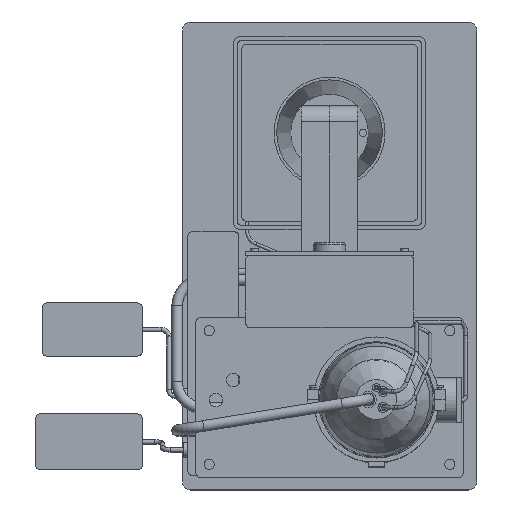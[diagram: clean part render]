
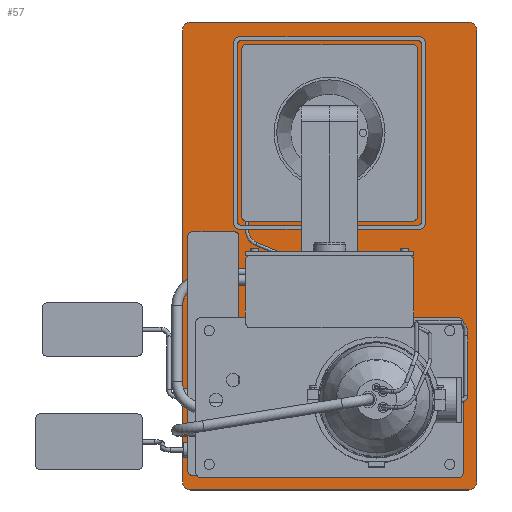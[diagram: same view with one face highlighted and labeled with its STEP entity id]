
A CAD part, top view. The second image highlights one B-rep face of the part: STEP entity #57.
In plain terms, the highlighted planar face has unit normal (0, 0, 1).
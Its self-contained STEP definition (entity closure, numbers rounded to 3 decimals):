
#21 = EDGE_CURVE('',#22,#24,#26,.T.);
#22 = VERTEX_POINT('',#23);
#23 = CARTESIAN_POINT('',(-110.,-169.,16.));
#24 = VERTEX_POINT('',#25);
#25 = CARTESIAN_POINT('',(-110.,169.,16.));
#26 = LINE('',#27,#28);
#27 = CARTESIAN_POINT('',(-110.,-175.,16.));
#28 = VECTOR('',#29,1.);
#29 = DIRECTION('',(0.,1.,0.));
#57 = ADVANCED_FACE('',(#58,#119,#130,#141,#152,#163,#174,#185,#196,#207
    ,#218),#229,.T.);
#58 = FACE_BOUND('',#59,.T.);
#59 = EDGE_LOOP('',(#60,#61,#70,#78,#87,#95,#104,#112));
#60 = ORIENTED_EDGE('',*,*,#21,.F.);
#61 = ORIENTED_EDGE('',*,*,#62,.T.);
#62 = EDGE_CURVE('',#22,#63,#65,.T.);
#63 = VERTEX_POINT('',#64);
#64 = CARTESIAN_POINT('',(-104.,-175.,16.));
#65 = CIRCLE('',#66,6.);
#66 = AXIS2_PLACEMENT_3D('',#67,#68,#69);
#67 = CARTESIAN_POINT('',(-104.,-169.,16.));
#68 = DIRECTION('',(-0.,0.,1.));
#69 = DIRECTION('',(0.,-1.,0.));
#70 = ORIENTED_EDGE('',*,*,#71,.T.);
#71 = EDGE_CURVE('',#63,#72,#74,.T.);
#72 = VERTEX_POINT('',#73);
#73 = CARTESIAN_POINT('',(104.,-175.,16.));
#74 = LINE('',#75,#76);
#75 = CARTESIAN_POINT('',(-110.,-175.,16.));
#76 = VECTOR('',#77,1.);
#77 = DIRECTION('',(1.,0.,0.));
#78 = ORIENTED_EDGE('',*,*,#79,.F.);
#79 = EDGE_CURVE('',#80,#72,#82,.T.);
#80 = VERTEX_POINT('',#81);
#81 = CARTESIAN_POINT('',(110.,-169.,16.));
#82 = CIRCLE('',#83,6.);
#83 = AXIS2_PLACEMENT_3D('',#84,#85,#86);
#84 = CARTESIAN_POINT('',(104.,-169.,16.));
#85 = DIRECTION('',(-0.,-0.,-1.));
#86 = DIRECTION('',(0.,-1.,0.));
#87 = ORIENTED_EDGE('',*,*,#88,.T.);
#88 = EDGE_CURVE('',#80,#89,#91,.T.);
#89 = VERTEX_POINT('',#90);
#90 = CARTESIAN_POINT('',(110.,169.,16.));
#91 = LINE('',#92,#93);
#92 = CARTESIAN_POINT('',(110.,-175.,16.));
#93 = VECTOR('',#94,1.);
#94 = DIRECTION('',(0.,1.,0.));
#95 = ORIENTED_EDGE('',*,*,#96,.T.);
#96 = EDGE_CURVE('',#89,#97,#99,.T.);
#97 = VERTEX_POINT('',#98);
#98 = CARTESIAN_POINT('',(104.,175.,16.));
#99 = CIRCLE('',#100,6.);
#100 = AXIS2_PLACEMENT_3D('',#101,#102,#103);
#101 = CARTESIAN_POINT('',(104.,169.,16.));
#102 = DIRECTION('',(-0.,0.,1.));
#103 = DIRECTION('',(0.,-1.,0.));
#104 = ORIENTED_EDGE('',*,*,#105,.F.);
#105 = EDGE_CURVE('',#106,#97,#108,.T.);
#106 = VERTEX_POINT('',#107);
#107 = CARTESIAN_POINT('',(-104.,175.,16.));
#108 = LINE('',#109,#110);
#109 = CARTESIAN_POINT('',(-110.,175.,16.));
#110 = VECTOR('',#111,1.);
#111 = DIRECTION('',(1.,0.,0.));
#112 = ORIENTED_EDGE('',*,*,#113,.F.);
#113 = EDGE_CURVE('',#24,#106,#114,.T.);
#114 = CIRCLE('',#115,6.);
#115 = AXIS2_PLACEMENT_3D('',#116,#117,#118);
#116 = CARTESIAN_POINT('',(-104.,169.,16.));
#117 = DIRECTION('',(-0.,-0.,-1.));
#118 = DIRECTION('',(0.,-1.,0.));
#119 = FACE_BOUND('',#120,.T.);
#120 = EDGE_LOOP('',(#121));
#121 = ORIENTED_EDGE('',*,*,#122,.F.);
#122 = EDGE_CURVE('',#123,#123,#125,.T.);
#123 = VERTEX_POINT('',#124);
#124 = CARTESIAN_POINT('',(-87.75,-156.,16.));
#125 = CIRCLE('',#126,2.25);
#126 = AXIS2_PLACEMENT_3D('',#127,#128,#129);
#127 = CARTESIAN_POINT('',(-90.,-156.,16.));
#128 = DIRECTION('',(0.,0.,1.));
#129 = DIRECTION('',(1.,0.,0.));
#130 = FACE_BOUND('',#131,.T.);
#131 = EDGE_LOOP('',(#132));
#132 = ORIENTED_EDGE('',*,*,#133,.F.);
#133 = EDGE_CURVE('',#134,#134,#136,.T.);
#134 = VERTEX_POINT('',#135);
#135 = CARTESIAN_POINT('',(92.25,-156.,16.));
#136 = CIRCLE('',#137,2.25);
#137 = AXIS2_PLACEMENT_3D('',#138,#139,#140);
#138 = CARTESIAN_POINT('',(90.,-156.,16.));
#139 = DIRECTION('',(0.,0.,1.));
#140 = DIRECTION('',(1.,0.,0.));
#141 = FACE_BOUND('',#142,.T.);
#142 = EDGE_LOOP('',(#143));
#143 = ORIENTED_EDGE('',*,*,#144,.F.);
#144 = EDGE_CURVE('',#145,#145,#147,.T.);
#145 = VERTEX_POINT('',#146);
#146 = CARTESIAN_POINT('',(-87.75,-56.,16.));
#147 = CIRCLE('',#148,2.25);
#148 = AXIS2_PLACEMENT_3D('',#149,#150,#151);
#149 = CARTESIAN_POINT('',(-90.,-56.,16.));
#150 = DIRECTION('',(0.,0.,1.));
#151 = DIRECTION('',(1.,0.,0.));
#152 = FACE_BOUND('',#153,.T.);
#153 = EDGE_LOOP('',(#154));
#154 = ORIENTED_EDGE('',*,*,#155,.F.);
#155 = EDGE_CURVE('',#156,#156,#158,.T.);
#156 = VERTEX_POINT('',#157);
#157 = CARTESIAN_POINT('',(-10.75,-45.,16.));
#158 = CIRCLE('',#159,2.25);
#159 = AXIS2_PLACEMENT_3D('',#160,#161,#162);
#160 = CARTESIAN_POINT('',(-13.,-45.,16.));
#161 = DIRECTION('',(0.,0.,1.));
#162 = DIRECTION('',(1.,0.,0.));
#163 = FACE_BOUND('',#164,.T.);
#164 = EDGE_LOOP('',(#165));
#165 = ORIENTED_EDGE('',*,*,#166,.F.);
#166 = EDGE_CURVE('',#167,#167,#169,.T.);
#167 = VERTEX_POINT('',#168);
#168 = CARTESIAN_POINT('',(-10.75,9.,16.));
#169 = CIRCLE('',#170,2.25);
#170 = AXIS2_PLACEMENT_3D('',#171,#172,#173);
#171 = CARTESIAN_POINT('',(-13.,9.,16.));
#172 = DIRECTION('',(0.,0.,1.));
#173 = DIRECTION('',(1.,0.,0.));
#174 = FACE_BOUND('',#175,.T.);
#175 = EDGE_LOOP('',(#176));
#176 = ORIENTED_EDGE('',*,*,#177,.F.);
#177 = EDGE_CURVE('',#178,#178,#180,.T.);
#178 = VERTEX_POINT('',#179);
#179 = CARTESIAN_POINT('',(15.25,-45.,16.));
#180 = CIRCLE('',#181,2.25);
#181 = AXIS2_PLACEMENT_3D('',#182,#183,#184);
#182 = CARTESIAN_POINT('',(13.,-45.,16.));
#183 = DIRECTION('',(0.,0.,1.));
#184 = DIRECTION('',(1.,0.,0.));
#185 = FACE_BOUND('',#186,.T.);
#186 = EDGE_LOOP('',(#187));
#187 = ORIENTED_EDGE('',*,*,#188,.F.);
#188 = EDGE_CURVE('',#189,#189,#191,.T.);
#189 = VERTEX_POINT('',#190);
#190 = CARTESIAN_POINT('',(92.25,-56.,16.));
#191 = CIRCLE('',#192,2.25);
#192 = AXIS2_PLACEMENT_3D('',#193,#194,#195);
#193 = CARTESIAN_POINT('',(90.,-56.,16.));
#194 = DIRECTION('',(0.,0.,1.));
#195 = DIRECTION('',(1.,0.,0.));
#196 = FACE_BOUND('',#197,.T.);
#197 = EDGE_LOOP('',(#198));
#198 = ORIENTED_EDGE('',*,*,#199,.F.);
#199 = EDGE_CURVE('',#200,#200,#202,.T.);
#200 = VERTEX_POINT('',#201);
#201 = CARTESIAN_POINT('',(5.,-18.,16.));
#202 = CIRCLE('',#203,5.);
#203 = AXIS2_PLACEMENT_3D('',#204,#205,#206);
#204 = CARTESIAN_POINT('',(0.,-18.,16.));
#205 = DIRECTION('',(0.,0.,1.));
#206 = DIRECTION('',(1.,0.,0.));
#207 = FACE_BOUND('',#208,.T.);
#208 = EDGE_LOOP('',(#209));
#209 = ORIENTED_EDGE('',*,*,#210,.F.);
#210 = EDGE_CURVE('',#211,#211,#213,.T.);
#211 = VERTEX_POINT('',#212);
#212 = CARTESIAN_POINT('',(15.5,-18.,16.));
#213 = CIRCLE('',#214,4.5);
#214 = AXIS2_PLACEMENT_3D('',#215,#216,#217);
#215 = CARTESIAN_POINT('',(11.,-18.,16.));
#216 = DIRECTION('',(0.,0.,1.));
#217 = DIRECTION('',(1.,0.,0.));
#218 = FACE_BOUND('',#219,.T.);
#219 = EDGE_LOOP('',(#220));
#220 = ORIENTED_EDGE('',*,*,#221,.F.);
#221 = EDGE_CURVE('',#222,#222,#224,.T.);
#222 = VERTEX_POINT('',#223);
#223 = CARTESIAN_POINT('',(15.25,9.,16.));
#224 = CIRCLE('',#225,2.25);
#225 = AXIS2_PLACEMENT_3D('',#226,#227,#228);
#226 = CARTESIAN_POINT('',(13.,9.,16.));
#227 = DIRECTION('',(0.,0.,1.));
#228 = DIRECTION('',(1.,0.,0.));
#229 = PLANE('',#230);
#230 = AXIS2_PLACEMENT_3D('',#231,#232,#233);
#231 = CARTESIAN_POINT('',(-110.,-175.,16.));
#232 = DIRECTION('',(0.,0.,1.));
#233 = DIRECTION('',(1.,0.,0.));
